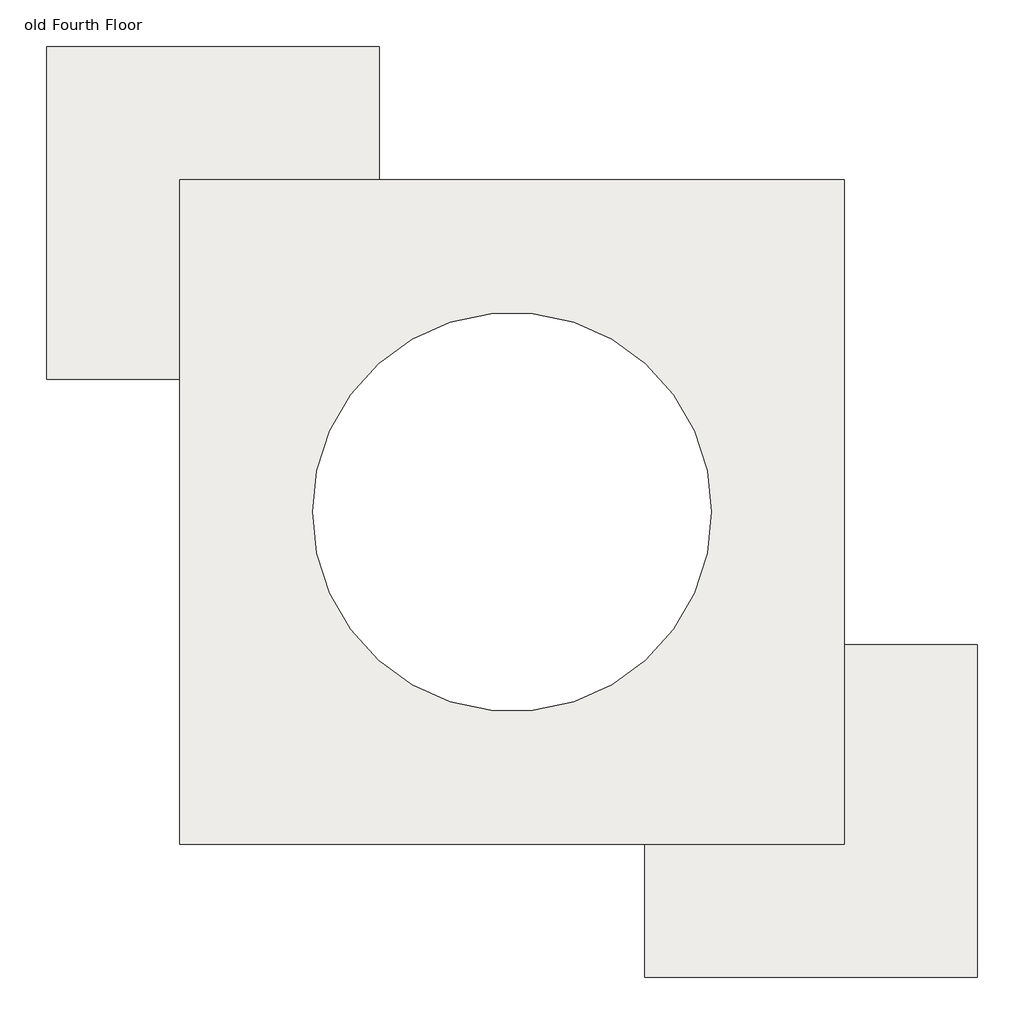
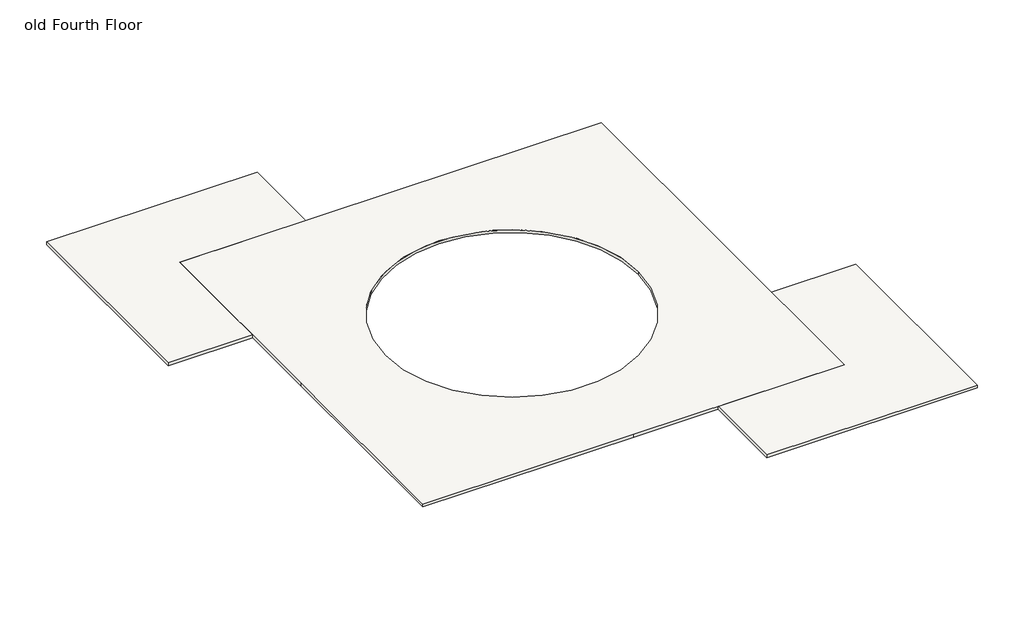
# One storey: 2 slabs.
"""IFC4 building model written with IfcOpenShell, lengths in millimetres."""

import ifcopenshell
import ifcopenshell.guid

model = None  # the IFC model being written
_history = None  # IfcOwnerHistory: only IFC2X3 demands one
_inside = {}  # id of a spatial element -> (the spatial element, [elements in it])
_under = {}  # id of a project, library or spatial element -> (it, [spatial elements below it])
_declared = {}  # id of a project -> (the project, [libraries it declares])
_typed = {}  # id of a type object -> (the type object, [elements of that type])
_made_of = {}  # id of a material, layer set ... -> (it, [elements and type objects made of it])


def new_model(schema):
    """Start an empty IFC model of exactly this schema.

    Asked for "IFC4X3", IfcOpenShell would pick the latest addendum, in which some entities
    have other attributes; the version numbers below select the first issue.
    IFC2X3 requires an IfcOwnerHistory on every rooted entity: one is made here for all.
    """
    global model, _history
    if schema == "IFC4X3":
        model = ifcopenshell.file(schema_version=(4, 3, 0, 0))
    else:
        model = ifcopenshell.file(schema=schema)
    _inside.clear()
    _under.clear()
    _declared.clear()
    _typed.clear()
    _made_of.clear()
    _history = None
    if model.schema == "IFC2X3":
        org = make("IfcOrganization", Name="unknown")
        user = make(
            "IfcPersonAndOrganization",
            ThePerson=make("IfcPerson", FamilyName="unknown"),
            TheOrganization=org,
        )
        app = make(
            "IfcApplication",
            ApplicationDeveloper=org,
            Version="unknown",
            ApplicationFullName="unknown",
            ApplicationIdentifier="unknown",
        )
        _history = make(
            "IfcOwnerHistory",
            OwningUser=user,
            OwningApplication=app,
            ChangeAction="ADDED",
            CreationDate=0,
        )
    return model


def make(cls, **values):
    """One entity of the class cls with the attributes given. An attribute that is None is left unset."""
    return model.create_entity(
        cls, **{name: value for name, value in values.items() if value is not None}
    )


def rooted(cls, **values):
    """An entity with a GlobalId (a new one), such as an element, a storey or a relation."""
    return make(cls, GlobalId=ifcopenshell.guid.new(), OwnerHistory=_history, **values)


def si_unit(unit_type, name, prefix=None):
    """IfcSIUnit, for example si_unit("LENGTHUNIT", "METRE", prefix="MILLI")."""
    return make("IfcSIUnit", UnitType=unit_type, Prefix=prefix, Name=name)


def assignment(units):
    """IfcUnitAssignment: the units of a project."""
    return None if units is None else make("IfcUnitAssignment", Units=units)


def point(xyz):
    """IfcCartesianPoint."""
    return None if xyz is None else make("IfcCartesianPoint", Coordinates=xyz)


def direction(xyz):
    """IfcDirection."""
    return None if xyz is None else make("IfcDirection", DirectionRatios=xyz)


def frame(location, z_axis=None, x_axis=None):
    """IfcAxis2Placement3D, a coordinate frame: its origin and axes. An axis left out is left unset."""
    return make(
        "IfcAxis2Placement3D",
        Location=point(location),
        Axis=direction(z_axis),
        RefDirection=direction(x_axis),
    )


def frame_2d(location, x_axis=None):
    """IfcAxis2Placement2D, a coordinate frame in the plane: its origin and x axis."""
    return make(
        "IfcAxis2Placement2D", Location=point(location), RefDirection=direction(x_axis)
    )


def origin():
    """The frame at (0, 0, 0) with its axes left unset."""
    return frame((0.0, 0.0, 0.0))


def place(relative_to, where):
    """IfcLocalPlacement: puts the frame where relative to a parent placement (None: the world)."""
    return make(
        "IfcLocalPlacement", PlacementRelTo=relative_to, RelativePlacement=where
    )


def context(
    kind, dimensions, precision=None, world=None, true_north=None, identifier=None
):
    """IfcGeometricRepresentationContext, for example the 3D "Model" context."""
    return make(
        "IfcGeometricRepresentationContext",
        ContextIdentifier=identifier,
        ContextType=kind,
        CoordinateSpaceDimension=dimensions,
        Precision=precision,
        WorldCoordinateSystem=world,
        TrueNorth=true_north,
    )


def project(units=None, contexts=None):
    """IfcProject with its units and contexts."""
    return rooted(
        "IfcProject",
        Name="project",
        RepresentationContexts=contexts,
        UnitsInContext=assignment(units),
    )


def spatial(cls, under=None, at=None, **own):
    """A site, building, storey or space (cls), placed at a placement, below another one or the project."""
    s = rooted(cls, ObjectPlacement=at, **own)
    if under is not None:
        _under.setdefault(under.id(), (under, []))[1].append(s)
    return s


def polyline(points):
    """IfcPolyline through the points."""
    return make("IfcPolyline", Points=[point(p) for p in points])


def circle_curve(where, radius):
    """IfcCircle in the frame where."""
    return make("IfcCircle", Position=where, Radius=radius)


def trimmed(basis, trim1, trim2, sense, master):
    """IfcTrimmedCurve: the piece of a basis curve between two trims."""
    return make(
        "IfcTrimmedCurve",
        BasisCurve=basis,
        Trim1=trim1,
        Trim2=trim2,
        SenseAgreement=sense,
        MasterRepresentation=master,
    )


def segment(curve, same_sense, transition):
    """IfcCompositeCurveSegment."""
    return make(
        "IfcCompositeCurveSegment",
        Transition=transition,
        SameSense=same_sense,
        ParentCurve=curve,
    )


def composite_curve(segments, self_intersect=None):
    """IfcCompositeCurve: segments joined end to end."""
    return make("IfcCompositeCurve", Segments=segments, SelfIntersect=self_intersect)


def outline(outer, holes=None, kind="AREA"):
    """IfcArbitraryClosedProfileDef: a profile drawn as a closed curve; with holes, ...WithVoids."""
    if holes is None:
        return make("IfcArbitraryClosedProfileDef", ProfileType=kind, OuterCurve=outer)
    return make(
        "IfcArbitraryProfileDefWithVoids",
        ProfileType=kind,
        OuterCurve=outer,
        InnerCurves=holes,
    )


def extrude(swept, where, along, depth):
    """IfcExtrudedAreaSolid: the profile swept, set in the frame where, extruded along a direction by depth."""
    return make(
        "IfcExtrudedAreaSolid",
        SweptArea=swept,
        Position=where,
        ExtrudedDirection=direction(along),
        Depth=depth,
    )


def shape(context_of_items, identifier, shape_type, items):
    """IfcShapeRepresentation: the items that make up one representation, for example the "Body"."""
    return make(
        "IfcShapeRepresentation",
        ContextOfItems=context_of_items,
        RepresentationIdentifier=identifier,
        RepresentationType=shape_type,
        Items=items,
    )


def made_of(thing, what):
    """Note that an element or type object is made of a material, layer set ...; save() writes the relation."""
    if what is not None:
        _made_of.setdefault(what.id(), (what, []))[1].append(thing)
    return thing


def element(
    cls,
    number,
    at=None,
    inside=None,
    cuts=None,
    type_object=None,
    material=None,
    context=None,
    identifier="Body",
    shape_type=None,
    held_by="IfcProductDefinitionShape",
    body=None,
    shapes=None,
    **own,
):
    """One element of the class cls, such as IfcWall. Its Tag is "e" and its number.

    at: its placement. inside: the storey or other place that contains it. cuts: it is an
    opening in that element (IfcRelVoidsElement). A single representation is given by context,
    identifier, shape_type and body (its items); several are given by shapes. held_by: the class
    of the entity that holds the representations. save() writes the other relations.
    """
    e = rooted(cls, Tag="e%d" % number, ObjectPlacement=at, **own)
    if body is not None:
        shapes = [shape(context, identifier, shape_type, body)]
    if shapes is not None:
        e.Representation = make(held_by, Representations=shapes)
    if inside is not None:
        _inside.setdefault(inside.id(), (inside, []))[1].append(e)
    if cuts is not None:
        rooted(
            "IfcRelVoidsElement", RelatingBuildingElement=cuts, RelatedOpeningElement=e
        )
    if type_object is not None:
        _typed.setdefault(type_object.id(), (type_object, []))[1].append(e)
    return made_of(e, material)


def aggregate(whole, parts):
    """IfcRelAggregates: a whole, such as a stair, and the parts it consists of."""
    return rooted("IfcRelAggregates", RelatingObject=whole, RelatedObjects=parts)


def save(model, path):
    """Write the relations noted so far, then the file.

    IfcRelAggregates (storeys below a building ...), IfcRelContainedInSpatialStructure (elements
    in a storey), IfcRelDefinesByType, IfcRelAssociatesMaterial and IfcRelDeclares: one each for
    every whole, place, type object, material and project.
    """
    for whole, parts in _under.values():
        aggregate(whole, parts)
    for where, things in _inside.values():
        rooted(
            "IfcRelContainedInSpatialStructure",
            RelatedElements=things,
            RelatingStructure=where,
        )
    for kind, things in _typed.values():
        rooted("IfcRelDefinesByType", RelatedObjects=things, RelatingType=kind)
    for what, things in _made_of.values():
        rooted("IfcRelAssociatesMaterial", RelatedObjects=things, RelatingMaterial=what)
    for by, libraries in _declared.values():
        rooted("IfcRelDeclares", RelatingContext=by, RelatedDefinitions=libraries)
    model.write(path)


model = new_model("IFC4")

# Units and contexts
model_context = context("Model", 3, world=origin())
ifc_project = project(units=[si_unit("LENGTHUNIT", "METRE", prefix="MILLI")], contexts=[model_context])

# Site, building, storey
site = spatial("IfcSite", under=ifc_project)
building = spatial("IfcBuilding", under=site)
storey = spatial("IfcBuildingStorey", under=building, Name="old Fourth Floor", Elevation=9144.0)

# Slabs
placement = place(None, origin())
element("IfcSlab", 1, ObjectType="LW Concrete on Metal Deck", at=placement, inside=storey, context=model_context, shape_type="SweptSolid", body=[
    extrude(outline(polyline([(7308.8955952, 7299.8851347), (7308.8955952, -7940.1148653), (-311.1044048, -7940.1148653), (-7931.1044048, -7940.1148653), (-7931.1044048, -320.1148653), (-7931.1044048, 7299.8851347), (7308.8955952, 7299.8851347)]), holes=[composite_curve([segment(trimmed(circle_curve(frame_2d((-311.1044048, -320.1148653)), 4572.0), [point((4260.8955952, -320.1148653))], [point((-4883.1044048, -320.1148653))], True, "CARTESIAN"), True, "CONTINUOUS"), segment(trimmed(circle_curve(frame_2d((-311.1044048, -320.1148653)), 4572.0), [point((-4883.1044048, -320.1148653))], [point((4260.8955952, -320.1148653))], True, "CARTESIAN"), True, "CONTINUOUS")], self_intersect=False)]), frame((0.0, 0.0, 9039.225), z_axis=(0.0, 0.0, 1.0), x_axis=(1.0, 0.0, 0.0)), (0.0, 0.0, 1.0), 104.775),
])
element("IfcSlab", 2, ObjectType="LW Concrete on Metal Deck", at=placement, inside=storey, context=model_context, shape_type="SweptSolid", body=[
    extrude(outline(polyline([(-3359.1044048, 10347.8851347), (-3359.1044048, 7299.8851347), (-7931.1044048, 7299.8851347), (-7931.1044048, 2727.8851347), (-10979.1044048, 2727.8851347), (-10979.1044048, 10347.8851347), (-3359.1044048, 10347.8851347)])), frame((0.0, 0.0, 9039.225), z_axis=(0.0, 0.0, 1.0), x_axis=(1.0, 0.0, 0.0)), (0.0, 0.0, 1.0), 104.775),
    extrude(outline(polyline([(10356.8955952, -3368.1148653), (10356.8955952, -10988.1148653), (2736.8955952, -10988.1148653), (2736.8955952, -7940.1148653), (7308.8955952, -7940.1148653), (7308.8955952, -3368.1148653), (10356.8955952, -3368.1148653)])), frame((0.0, 0.0, 9039.225), z_axis=(0.0, 0.0, 1.0), x_axis=(1.0, 0.0, 0.0)), (0.0, 0.0, 1.0), 104.775),
])

save(model, "model.ifc")
